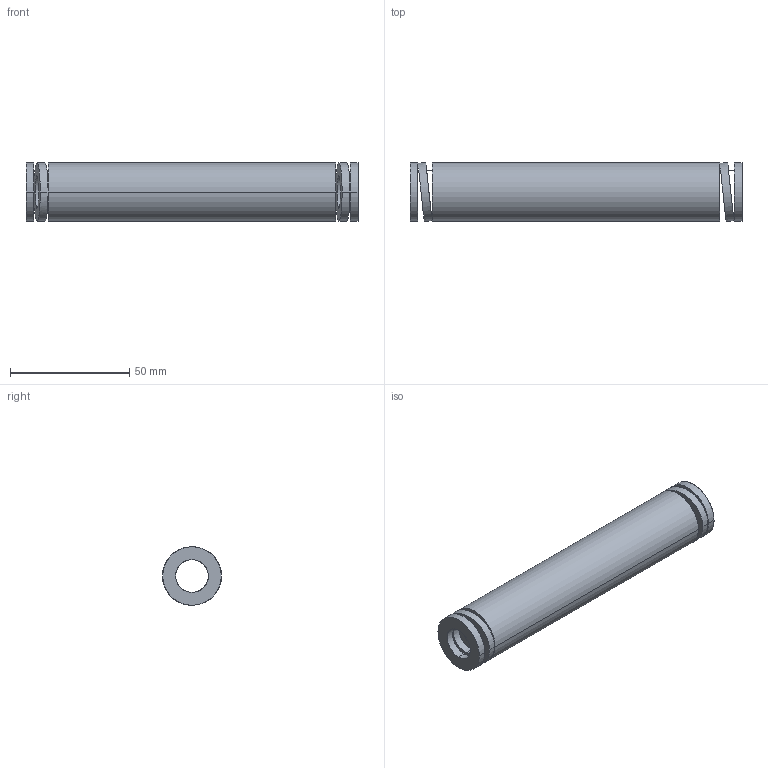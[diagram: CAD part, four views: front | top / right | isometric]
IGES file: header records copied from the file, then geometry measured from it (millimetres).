
Start section: START RECORD GO HERE.
Global section: file name: 392-B25-139.igs; native system: DASSAULT SYSTEMES CATIA V5 R20 - www.3ds.com; preprocessor: CATIA Version 5 Release 20 ; author: Utente; organization: NB04-ASUS; date: 20210813.094405; units: millimetre
Bounding box: 139 x 24.71 x 24.5 mm (x, y, z)
Surface area: 19270.4 mm2 (no closed solid volume)
Topology: 0 solids, 0 shells, 38 faces, 184 edges, 184 vertices
Faces by surface type: revolution 28, plane 10
